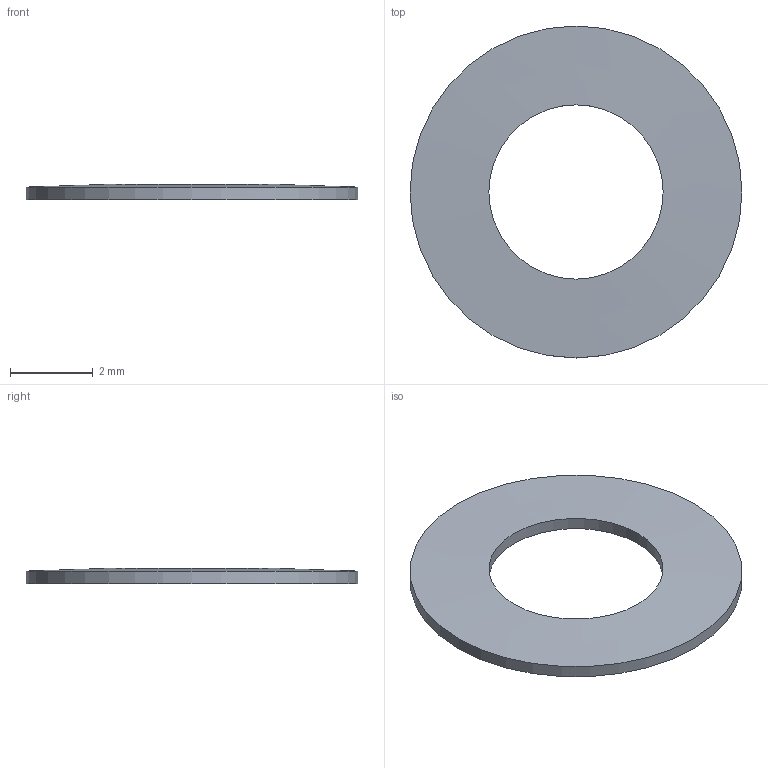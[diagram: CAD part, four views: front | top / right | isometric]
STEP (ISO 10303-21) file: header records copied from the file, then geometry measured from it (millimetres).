
FILE_DESCRIPTION(('Open CASCADE Model'),'2;1');
FILE_NAME('Open CASCADE Shape Model','2026-09-24T19:52:59',('Author'),( 'Open CASCADE'),'Open CASCADE STEP processor 7.8','Open CASCADE 7.8' ,'Unknown');
FILE_SCHEMA(('AUTOMOTIVE_DESIGN { 1 0 10303 214 1 1 1 1 }'));
Length unit declared in the file: millimetre
Products named in the file (1): Open CASCADE STEP translator 7.8 58
Bounding box: 8 x 8 x 0.36 mm (x, y, z)
Volume: 10.9 mm3; surface area: 84.4 mm2
Topology: 1 solids, 1 shells, 4 faces, 8 edges, 4 vertices
Faces by surface type: cone 2, cylinder 2
Full cylindrical faces by diameter (mm): 4.2 x1, 8 x1
Entity records: 222 total; most frequent: DIRECTION 38, CARTESIAN_POINT 33, LINE 20, VECTOR 20, ORIENTED_EDGE 16, PCURVE 16, DEFINITIONAL_REPRESENTATION 16, AXIS2_PLACEMENT_3D 9
